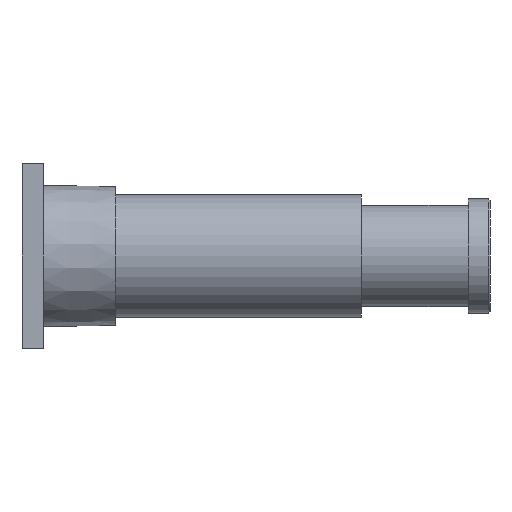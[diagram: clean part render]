
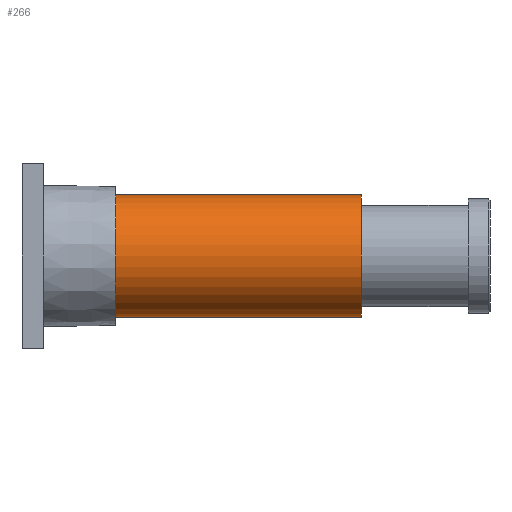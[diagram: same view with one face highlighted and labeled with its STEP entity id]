
A CAD part, front view. The second image highlights one B-rep face of the part: STEP entity #266.
In plain terms, the highlighted cylindrical face has radius 42.5 mm (diameter 85 mm), a partial arc.
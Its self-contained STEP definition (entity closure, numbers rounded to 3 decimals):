
#35 = VERTEX_POINT ( 'NONE', #1188 ) ;
#46 = CARTESIAN_POINT ( 'NONE',  ( 50., 0., 0. ) ) ;
#67 = DIRECTION ( 'NONE',  ( -1., 0., 0. ) ) ;
#130 = DIRECTION ( 'NONE',  ( -1., 0., 0. ) ) ;
#158 = DIRECTION ( 'NONE',  ( 0., 0., 1. ) ) ;
#168 = VECTOR ( 'NONE', #363, 1000. ) ;
#219 = ORIENTED_EDGE ( 'NONE', *, *, #778, .T. ) ;
#237 = CARTESIAN_POINT ( 'NONE',  ( 220., 0., 0. ) ) ;
#250 = LINE ( 'NONE', #494, #168 ) ;
#266 = ADVANCED_FACE ( 'NONE', ( #744 ), #469, .T. ) ;
#288 = ORIENTED_EDGE ( 'NONE', *, *, #352, .F. ) ;
#299 = VERTEX_POINT ( 'NONE', #949 ) ;
#352 = EDGE_CURVE ( 'NONE', #1030, #35, #250, .T. ) ;
#363 = DIRECTION ( 'NONE',  ( -1., 0., 0. ) ) ;
#364 = CARTESIAN_POINT ( 'NONE',  ( 220., 0., -42.5 ) ) ;
#413 = EDGE_CURVE ( 'NONE', #1030, #299, #1079, .T. ) ;
#469 = CYLINDRICAL_SURFACE ( 'NONE', #1019, 42.5 ) ;
#494 = CARTESIAN_POINT ( 'NONE',  ( 220., 0., -42.5 ) ) ;
#501 = VECTOR ( 'NONE', #1103, 1000. ) ;
#506 = ORIENTED_EDGE ( 'NONE', *, *, #413, .T. ) ;
#590 = DIRECTION ( 'NONE',  ( 1., 0., 0. ) ) ;
#689 = DIRECTION ( 'NONE',  ( 0., 0., 1. ) ) ;
#719 = LINE ( 'NONE', #924, #501 ) ;
#729 = CARTESIAN_POINT ( 'NONE',  ( 50., 0., 42.5 ) ) ;
#744 = FACE_OUTER_BOUND ( 'NONE', #793, .T. ) ;
#776 = CARTESIAN_POINT ( 'NONE',  ( 220., 0., 0. ) ) ;
#778 = EDGE_CURVE ( 'NONE', #1120, #35, #1071, .T. ) ;
#781 = ORIENTED_EDGE ( 'NONE', *, *, #921, .T. ) ;
#785 = AXIS2_PLACEMENT_3D ( 'NONE', #46, #590, #1132 ) ;
#793 = EDGE_LOOP ( 'NONE', ( #288, #506, #781, #219 ) ) ;
#921 = EDGE_CURVE ( 'NONE', #299, #1120, #719, .T. ) ;
#924 = CARTESIAN_POINT ( 'NONE',  ( 220., 0., 42.5 ) ) ;
#933 = AXIS2_PLACEMENT_3D ( 'NONE', #237, #67, #158 ) ;
#949 = CARTESIAN_POINT ( 'NONE',  ( 220., 0., 42.5 ) ) ;
#1019 = AXIS2_PLACEMENT_3D ( 'NONE', #776, #130, #689 ) ;
#1030 = VERTEX_POINT ( 'NONE', #364 ) ;
#1071 = CIRCLE ( 'NONE', #785, 42.5 ) ;
#1079 = CIRCLE ( 'NONE', #933, 42.5 ) ;
#1103 = DIRECTION ( 'NONE',  ( -1., 0., 0. ) ) ;
#1120 = VERTEX_POINT ( 'NONE', #729 ) ;
#1132 = DIRECTION ( 'NONE',  ( 0., 0., 1. ) ) ;
#1188 = CARTESIAN_POINT ( 'NONE',  ( 50., 0., -42.5 ) ) ;
